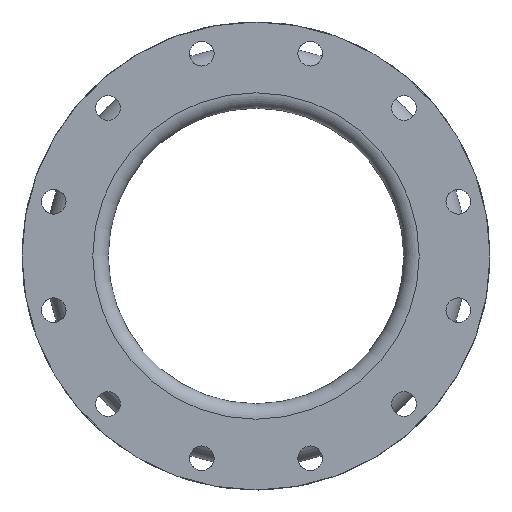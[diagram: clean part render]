
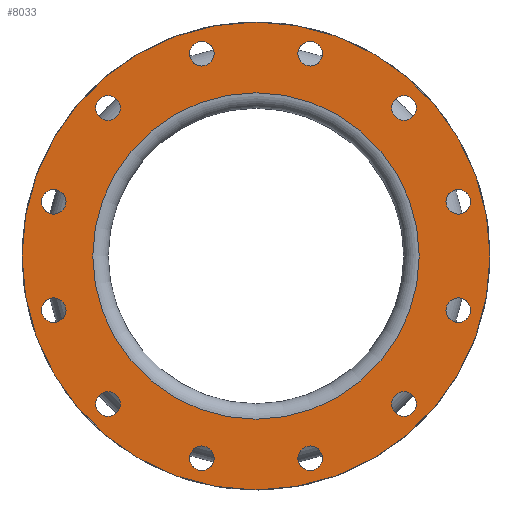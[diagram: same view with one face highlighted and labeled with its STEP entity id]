
A CAD part, left-side view. The second image highlights one B-rep face of the part: STEP entity #8033.
In plain terms, the highlighted planar face has unit normal (-1, 0, 0).
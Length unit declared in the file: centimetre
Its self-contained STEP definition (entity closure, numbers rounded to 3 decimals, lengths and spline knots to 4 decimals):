
#118=FACE_BOUND('',#1291,.T.);
#119=FACE_BOUND('',#1292,.T.);
#120=FACE_BOUND('',#1293,.T.);
#121=FACE_BOUND('',#1294,.T.);
#122=FACE_BOUND('',#1295,.T.);
#123=FACE_BOUND('',#1296,.T.);
#124=FACE_BOUND('',#1297,.T.);
#125=FACE_BOUND('',#1298,.T.);
#126=FACE_BOUND('',#1299,.T.);
#127=FACE_BOUND('',#1300,.T.);
#128=FACE_BOUND('',#1301,.T.);
#129=FACE_BOUND('',#1302,.T.);
#130=FACE_BOUND('',#1303,.T.);
#131=FACE_BOUND('',#1304,.T.);
#1291=EDGE_LOOP('',(#6147));
#1292=EDGE_LOOP('',(#6148));
#1293=EDGE_LOOP('',(#6149));
#1294=EDGE_LOOP('',(#6150));
#1295=EDGE_LOOP('',(#6151));
#1296=EDGE_LOOP('',(#6152));
#1297=EDGE_LOOP('',(#6153));
#1298=EDGE_LOOP('',(#6154));
#1299=EDGE_LOOP('',(#6155));
#1300=EDGE_LOOP('',(#6156));
#1301=EDGE_LOOP('',(#6157));
#1302=EDGE_LOOP('',(#6158));
#1303=EDGE_LOOP('',(#6159));
#1304=EDGE_LOOP('',(#6160));
#2806=CIRCLE('',#8731,1.27);
#2808=CIRCLE('',#8734,1.27);
#2810=CIRCLE('',#8737,1.27);
#2812=CIRCLE('',#8740,1.27);
#2814=CIRCLE('',#8743,1.27);
#2816=CIRCLE('',#8746,1.27);
#2818=CIRCLE('',#8749,1.27);
#2820=CIRCLE('',#8752,1.27);
#2822=CIRCLE('',#8755,1.27);
#2824=CIRCLE('',#8758,1.27);
#2826=CIRCLE('',#8761,1.27);
#2828=CIRCLE('',#8764,1.27);
#2864=CIRCLE('',#8823,16.8275);
#2865=CIRCLE('',#8825,24.13);
#3522=VERTEX_POINT('',#13031);
#3524=VERTEX_POINT('',#13036);
#3526=VERTEX_POINT('',#13041);
#3528=VERTEX_POINT('',#13046);
#3530=VERTEX_POINT('',#13051);
#3532=VERTEX_POINT('',#13056);
#3534=VERTEX_POINT('',#13061);
#3536=VERTEX_POINT('',#13066);
#3538=VERTEX_POINT('',#13071);
#3540=VERTEX_POINT('',#13076);
#3542=VERTEX_POINT('',#13081);
#3544=VERTEX_POINT('',#13086);
#3580=VERTEX_POINT('',#13181);
#3581=VERTEX_POINT('',#13184);
#4462=EDGE_CURVE('',#3522,#3522,#2806,.T.);
#4464=EDGE_CURVE('',#3524,#3524,#2808,.T.);
#4466=EDGE_CURVE('',#3526,#3526,#2810,.T.);
#4468=EDGE_CURVE('',#3528,#3528,#2812,.T.);
#4470=EDGE_CURVE('',#3530,#3530,#2814,.T.);
#4472=EDGE_CURVE('',#3532,#3532,#2816,.T.);
#4474=EDGE_CURVE('',#3534,#3534,#2818,.T.);
#4476=EDGE_CURVE('',#3536,#3536,#2820,.T.);
#4478=EDGE_CURVE('',#3538,#3538,#2822,.T.);
#4480=EDGE_CURVE('',#3540,#3540,#2824,.T.);
#4482=EDGE_CURVE('',#3542,#3542,#2826,.T.);
#4484=EDGE_CURVE('',#3544,#3544,#2828,.T.);
#4520=EDGE_CURVE('',#3580,#3580,#2864,.T.);
#4521=EDGE_CURVE('',#3581,#3581,#2865,.T.);
#6147=ORIENTED_EDGE('',*,*,#4462,.T.);
#6148=ORIENTED_EDGE('',*,*,#4464,.T.);
#6149=ORIENTED_EDGE('',*,*,#4466,.T.);
#6150=ORIENTED_EDGE('',*,*,#4468,.T.);
#6151=ORIENTED_EDGE('',*,*,#4470,.T.);
#6152=ORIENTED_EDGE('',*,*,#4472,.T.);
#6153=ORIENTED_EDGE('',*,*,#4474,.T.);
#6154=ORIENTED_EDGE('',*,*,#4476,.T.);
#6155=ORIENTED_EDGE('',*,*,#4478,.T.);
#6156=ORIENTED_EDGE('',*,*,#4480,.T.);
#6157=ORIENTED_EDGE('',*,*,#4482,.T.);
#6158=ORIENTED_EDGE('',*,*,#4484,.T.);
#6159=ORIENTED_EDGE('',*,*,#4521,.F.);
#6160=ORIENTED_EDGE('',*,*,#4520,.T.);
#7313=PLANE('',#8824);
#8033=ADVANCED_FACE('',(#118,#119,#120,#121,#122,#123,#124,#125,#126,#127,
#128,#129,#130,#131),#7313,.T.);
#8731=AXIS2_PLACEMENT_3D('',#13032,#10529,#10530);
#8734=AXIS2_PLACEMENT_3D('',#13037,#10535,#10536);
#8737=AXIS2_PLACEMENT_3D('',#13042,#10541,#10542);
#8740=AXIS2_PLACEMENT_3D('',#13047,#10547,#10548);
#8743=AXIS2_PLACEMENT_3D('',#13052,#10553,#10554);
#8746=AXIS2_PLACEMENT_3D('',#13057,#10559,#10560);
#8749=AXIS2_PLACEMENT_3D('',#13062,#10565,#10566);
#8752=AXIS2_PLACEMENT_3D('',#13067,#10571,#10572);
#8755=AXIS2_PLACEMENT_3D('',#13072,#10577,#10578);
#8758=AXIS2_PLACEMENT_3D('',#13077,#10583,#10584);
#8761=AXIS2_PLACEMENT_3D('',#13082,#10589,#10590);
#8764=AXIS2_PLACEMENT_3D('',#13087,#10595,#10596);
#8823=AXIS2_PLACEMENT_3D('',#13182,#10713,#10714);
#8824=AXIS2_PLACEMENT_3D('',#13183,#10715,#10716);
#8825=AXIS2_PLACEMENT_3D('',#13185,#10717,#10718);
#10529=DIRECTION('center_axis',(1.,0.,0.));
#10530=DIRECTION('ref_axis',(0.,-0.866,0.5));
#10535=DIRECTION('center_axis',(1.,0.,0.));
#10536=DIRECTION('ref_axis',(0.,-0.5,
0.866));
#10541=DIRECTION('center_axis',(1.,0.,0.));
#10542=DIRECTION('ref_axis',(0.,0.,
1.));
#10547=DIRECTION('center_axis',(1.,0.,0.));
#10548=DIRECTION('ref_axis',(0.,0.5,0.866));
#10553=DIRECTION('center_axis',(1.,0.,0.));
#10554=DIRECTION('ref_axis',(0.,0.866,0.5));
#10559=DIRECTION('center_axis',(1.,0.,0.));
#10560=DIRECTION('ref_axis',(0.,1.,0.));
#10565=DIRECTION('center_axis',(1.,0.,0.));
#10566=DIRECTION('ref_axis',(0.,0.866,-0.5));
#10571=DIRECTION('center_axis',(1.,0.,0.));
#10572=DIRECTION('ref_axis',(0.,0.5,-0.866));
#10577=DIRECTION('center_axis',(1.,0.,0.));
#10578=DIRECTION('ref_axis',(0.,0.,
-1.));
#10583=DIRECTION('center_axis',(1.,0.,0.));
#10584=DIRECTION('ref_axis',(0.,-0.5,-0.866));
#10589=DIRECTION('center_axis',(1.,0.,0.));
#10590=DIRECTION('ref_axis',(0.,-0.866,-0.5));
#10595=DIRECTION('center_axis',(1.,0.,0.));
#10596=DIRECTION('ref_axis',(0.,-1.,0.));
#10713=DIRECTION('center_axis',(1.,0.,0.));
#10714=DIRECTION('ref_axis',(0.,0.,-1.));
#10715=DIRECTION('center_axis',(-1.,0.,0.));
#10716=DIRECTION('ref_axis',(0.,0.,1.));
#10717=DIRECTION('center_axis',(1.,0.,0.));
#10718=DIRECTION('ref_axis',(0.,0.,-1.));
#13031=CARTESIAN_POINT('',(-15.24,16.3663,-15.9014));
#13032=CARTESIAN_POINT('Origin',(-15.24,15.2664,-15.2664));
#13036=CARTESIAN_POINT('',(-15.24,6.2229,-21.9542));
#13037=CARTESIAN_POINT('Origin',(-15.24,5.5879,-20.8543));
#13041=CARTESIAN_POINT('',(-15.24,-5.5879,-22.1243));
#13042=CARTESIAN_POINT('Origin',(-15.24,-5.5879,-20.8543));
#13046=CARTESIAN_POINT('',(-15.24,-15.9014,-16.3663));
#13047=CARTESIAN_POINT('Origin',(-15.24,-15.2664,-15.2664));
#13051=CARTESIAN_POINT('',(-15.24,-21.9542,-6.2229));
#13052=CARTESIAN_POINT('Origin',(-15.24,-20.8543,-5.5879));
#13056=CARTESIAN_POINT('',(-15.24,-22.1243,5.5879));
#13057=CARTESIAN_POINT('Origin',(-15.24,-20.8543,5.5879));
#13061=CARTESIAN_POINT('',(-15.24,-16.3663,15.9014));
#13062=CARTESIAN_POINT('Origin',(-15.24,-15.2664,15.2664));
#13066=CARTESIAN_POINT('',(-15.24,-6.2229,21.9542));
#13067=CARTESIAN_POINT('Origin',(-15.24,-5.5879,20.8543));
#13071=CARTESIAN_POINT('',(-15.24,5.5879,22.1243));
#13072=CARTESIAN_POINT('Origin',(-15.24,5.5879,20.8543));
#13076=CARTESIAN_POINT('',(-15.24,15.9014,16.3663));
#13077=CARTESIAN_POINT('Origin',(-15.24,15.2664,15.2664));
#13081=CARTESIAN_POINT('',(-15.24,21.9542,6.2229));
#13082=CARTESIAN_POINT('Origin',(-15.24,20.8543,5.5879));
#13086=CARTESIAN_POINT('',(-15.24,22.1243,-5.5879));
#13087=CARTESIAN_POINT('Origin',(-15.24,20.8543,-5.5879));
#13181=CARTESIAN_POINT('',(-15.24,16.8275,0.));
#13182=CARTESIAN_POINT('Origin',(-15.24,0.,0.));
#13183=CARTESIAN_POINT('Origin',(-15.24,24.13,0.));
#13184=CARTESIAN_POINT('',(-15.24,24.13,0.));
#13185=CARTESIAN_POINT('Origin',(-15.24,0.,0.));
